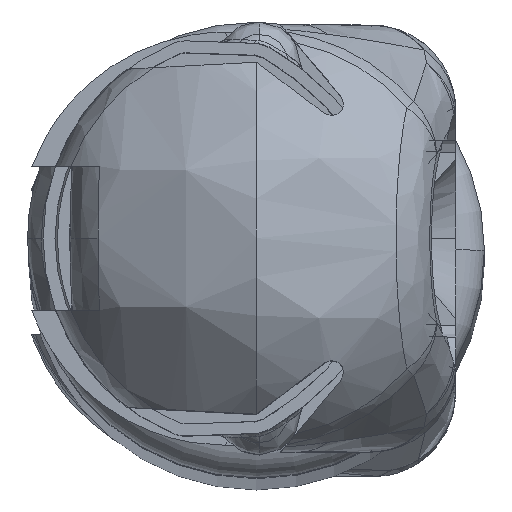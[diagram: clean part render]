
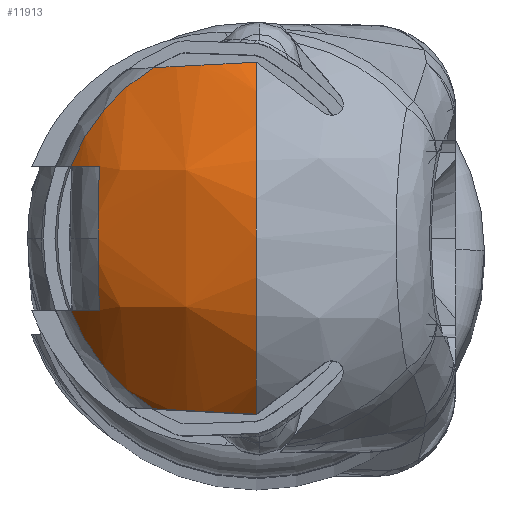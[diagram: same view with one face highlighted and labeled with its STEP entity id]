
A CAD part, top view. The second image highlights one B-rep face of the part: STEP entity #11913.
In plain terms, the highlighted free-form (B-spline) face has degree [3, 3] with [4, 4] control points.
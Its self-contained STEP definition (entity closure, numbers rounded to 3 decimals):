
#355 = CARTESIAN_POINT ( 'NONE',  ( -0.895, 0., 5.753 ) ) ;
#356 = DIRECTION ( 'NONE',  ( -0.105, 0., -0.995 ) ) ;
#357 = DIRECTION ( 'NONE',  ( -0.995, 0., 0.105 ) ) ;
#752 = CARTESIAN_POINT ( 'NONE',  ( -1.5, 0., 0. ) ) ;
#753 = DIRECTION ( 'NONE',  ( 0., 0., -1. ) ) ;
#754 = DIRECTION ( 'NONE',  ( 0., -1., 0. ) ) ;
#2656 = CARTESIAN_POINT ( 'NONE',  ( -7.204, 7.402, 4.197 ) ) ;
#2657 = CARTESIAN_POINT ( 'NONE',  ( -8.224, 7.402, 2.222 ) ) ;
#2658 = CARTESIAN_POINT ( 'NONE',  ( -8.224, 7.402, 0. ) ) ;
#2686 = CARTESIAN_POINT ( 'NONE',  ( -12.897, 3.157, 3.767 ) ) ;
#2687 = CARTESIAN_POINT ( 'NONE',  ( -12.897, 3.157, 0. ) ) ;
#2688 = CARTESIAN_POINT ( 'NONE',  ( -5.392, 7.402, 5.483 ) ) ;
#2765 = CARTESIAN_POINT ( 'NONE',  ( -5.392, -7.402, 5.483 ) ) ;
#2766 = CARTESIAN_POINT ( 'NONE',  ( -7.204, -7.402, 4.197 ) ) ;
#2767 = CARTESIAN_POINT ( 'NONE',  ( -8.224, -7.402, 2.222 ) ) ;
#2768 = CARTESIAN_POINT ( 'NONE',  ( -8.224, -7.402, 0. ) ) ;
#2771 = CARTESIAN_POINT ( 'NONE',  ( -8.097, -3.157, 9.293 ) ) ;
#2772 = CARTESIAN_POINT ( 'NONE',  ( -11.169, -3.157, 7.113 ) ) ;
#2773 = CARTESIAN_POINT ( 'NONE',  ( -12.897, -3.157, 3.767 ) ) ;
#2774 = CARTESIAN_POINT ( 'NONE',  ( -12.897, -3.157, 0. ) ) ;
#2775 = CARTESIAN_POINT ( 'NONE',  ( -8.097, 3.157, 9.293 ) ) ;
#2776 = CARTESIAN_POINT ( 'NONE',  ( -11.169, 3.157, 7.113 ) ) ;
#3306 = DIRECTION ( 'NONE',  ( 0., 0., -1. ) ) ;
#3307 = DIRECTION ( 'NONE',  ( 1., 0., 0. ) ) ;
#3308 = CARTESIAN_POINT ( 'NONE',  ( -7.066, 0., 0. ) ) ;
#5393 = CARTESIAN_POINT ( 'NONE',  ( -8.297, 7.335, 0. ) ) ;
#5405 = CARTESIAN_POINT ( 'NONE',  ( -9.008, 0., 6.606 ) ) ;
#5436 = CARTESIAN_POINT ( 'NONE',  ( -8.297, -7.335, 0. ) ) ;
#5476 = CARTESIAN_POINT ( 'NONE',  ( -8.439, 3., 6.546 ) ) ;
#5646 = CARTESIAN_POINT ( 'NONE',  ( -8.297, -7.335, 0. ) ) ;
#5647 = CARTESIAN_POINT ( 'NONE',  ( -8.34, -7.295, 0.765 ) ) ;
#5648 = CARTESIAN_POINT ( 'NONE',  ( -8.256, -7.256, 1.517 ) ) ;
#5649 = CARTESIAN_POINT ( 'NONE',  ( -7.834, -7.178, 2.99 ) ) ;
#5650 = CARTESIAN_POINT ( 'NONE',  ( -7.508, -7.143, 3.671 ) ) ;
#5651 = CARTESIAN_POINT ( 'NONE',  ( -7.066, -7.11, 4.298 ) ) ;
#5652 = DIRECTION ( 'NONE',  ( 1., 0., 0. ) ) ;
#5653 = DIRECTION ( 'NONE',  ( 0., -1., 0. ) ) ;
#5654 = CARTESIAN_POINT ( 'NONE',  ( -1.5, 3., 0. ) ) ;
#5655 = CARTESIAN_POINT ( 'NONE',  ( -7.066, 7.11, 4.298 ) ) ;
#5656 = CARTESIAN_POINT ( 'NONE',  ( -7.508, 7.143, 3.671 ) ) ;
#5657 = CARTESIAN_POINT ( 'NONE',  ( -7.835, 7.178, 2.989 ) ) ;
#5658 = CARTESIAN_POINT ( 'NONE',  ( -8.256, 7.256, 1.516 ) ) ;
#5659 = CARTESIAN_POINT ( 'NONE',  ( -8.34, 7.295, 0.765 ) ) ;
#5660 = CARTESIAN_POINT ( 'NONE',  ( -8.297, 7.335, 0. ) ) ;
#6354 = CIRCLE ( 'NONE', #6369, 9.539 ) ;
#6369 = AXIS2_PLACEMENT_3D ( 'NONE', #5654, #5653, #5652 ) ;
#6372 = CIRCLE ( 'NONE', #6379, 8.308 ) ;
#6379 = AXIS2_PLACEMENT_3D ( 'NONE', #3308, #3307, #3306 ) ;
#7436 = B_SPLINE_CURVE_WITH_KNOTS ( 'NONE', 3,
 ( #5660, #5659, #5658, #5657, #5656, #5655 ),
 .UNSPECIFIED., .F., .F.,
 ( 4, 2, 4 ),
 ( 0., 0.002, 0.005 ),
 .UNSPECIFIED. ) ;
#7437 = B_SPLINE_CURVE_WITH_KNOTS ( 'NONE', 3,
 ( #5651, #5650, #5649, #5648, #5647, #5646 ),
 .UNSPECIFIED., .F., .F.,
 ( 4, 2, 4 ),
 ( 0., 0.002, 0.005 ),
 .UNSPECIFIED. ) ;
#7754 = VERTEX_POINT ( 'NONE', #5476 ) ;
#7790 = VERTEX_POINT ( 'NONE', #5436 ) ;
#7818 = VERTEX_POINT ( 'NONE', #5405 ) ;
#7830 = VERTEX_POINT ( 'NONE', #5393 ) ;
#8053 = ORIENTED_EDGE ( 'NONE', *, *, #18886, .F. ) ;
#8054 = ORIENTED_EDGE ( 'NONE', *, *, #14872, .T. ) ;
#8055 = ORIENTED_EDGE ( 'NONE', *, *, #11181, .F. ) ;
#8056 = ORIENTED_EDGE ( 'NONE', *, *, #14783, .T. ) ;
#8057 = ORIENTED_EDGE ( 'NONE', *, *, #14704, .T. ) ;
#8058 = ORIENTED_EDGE ( 'NONE', *, *, #18817, .T. ) ;
#8059 = ORIENTED_EDGE ( 'NONE', *, *, #11180, .F. ) ;
#8060 = ORIENTED_EDGE ( 'NONE', *, *, #11187, .F. ) ;
#8061 = ORIENTED_EDGE ( 'NONE', *, *, #11179, .F. ) ;
#10598 = AXIS2_PLACEMENT_3D ( 'NONE', #15361, #15362, #15363 ) ;
#10621 = AXIS2_PLACEMENT_3D ( 'NONE', #15837, #15838, #15839 ) ;
#10710 =( BOUNDED_SURFACE ( )  B_SPLINE_SURFACE ( 3, 3, ( 
 ( #2765, #2766, #2767, #2768 ),
 ( #2771, #2772, #2773, #2774 ),
 ( #2775, #2776, #2686, #2687 ),
 ( #2688, #2656, #2657, #2658 ) ),
 .UNSPECIFIED., .F., .F., .F. ) 
 B_SPLINE_SURFACE_WITH_KNOTS ( ( 4, 4 ),
 ( 4, 4 ),
 ( 0., 1. ),
 ( 0., 1. ),
 .UNSPECIFIED. ) 
 GEOMETRIC_REPRESENTATION_ITEM ( )  RATIONAL_B_SPLINE_SURFACE ( (
 ( 1., 0.926, 0.926, 1.),
 ( 0.782, 0.724, 0.724, 0.782),
 ( 0.782, 0.724, 0.724, 0.782),
 ( 1., 0.926, 0.926, 1.) ) ) 
 REPRESENTATION_ITEM ( '' )  SURFACE ( )  );
#10788 = CIRCLE ( 'NONE', #10621, 8.308 ) ;
#10801 = CIRCLE ( 'NONE', #10598, 8.157 ) ;
#11051 = FACE_OUTER_BOUND ( 'NONE', #13413, .T. ) ;
#11179 = EDGE_CURVE ( 'NONE', #7830, #17594, #7436, .T. ) ;
#11180 = EDGE_CURVE ( 'NONE', #17637, #7754, #6354, .T. ) ;
#11181 = EDGE_CURVE ( 'NONE', #17631, #7790, #7437, .T. ) ;
#11187 = EDGE_CURVE ( 'NONE', #17594, #17637, #6372, .T. ) ;
#11913 = ADVANCED_FACE ( 'NONE', ( #11051 ), #10710, .T. ) ;
#12914 = CIRCLE ( 'NONE', #13050, 9.539 ) ;
#13050 = AXIS2_PLACEMENT_3D ( 'NONE', #14342, #14343, #14344 ) ;
#13413 = EDGE_LOOP ( 'NONE', ( #8053, #8055, #8054, #8057, #8056, #8058, #8059, #8060, #8061 ) ) ;
#14342 = CARTESIAN_POINT ( 'NONE',  ( -1.5, -3., 0. ) ) ;
#14343 = DIRECTION ( 'NONE',  ( 0., -1., 0. ) ) ;
#14344 = DIRECTION ( 'NONE',  ( 1., 0., 0. ) ) ;
#14704 = EDGE_CURVE ( 'NONE', #17641, #17717, #12914, .T. ) ;
#14783 = EDGE_CURVE ( 'NONE', #17717, #7818, #10801, .T. ) ;
#14872 = EDGE_CURVE ( 'NONE', #17631, #17641, #10788, .T. ) ;
#15361 = CARTESIAN_POINT ( 'NONE',  ( -0.895, 0., 5.753 ) ) ;
#15362 = DIRECTION ( 'NONE',  ( -0.105, 0., -0.995 ) ) ;
#15363 = DIRECTION ( 'NONE',  ( -0.995, 0., 0.105 ) ) ;
#15837 = CARTESIAN_POINT ( 'NONE',  ( -7.066, 0., 0. ) ) ;
#15838 = DIRECTION ( 'NONE',  ( -1., 0., 0. ) ) ;
#15839 = DIRECTION ( 'NONE',  ( 0., 0., -1. ) ) ;
#15869 = CIRCLE ( 'NONE', #15973, 10. ) ;
#15953 = AXIS2_PLACEMENT_3D ( 'NONE', #355, #356, #357 ) ;
#15964 = CIRCLE ( 'NONE', #15953, 8.157 ) ;
#15973 = AXIS2_PLACEMENT_3D ( 'NONE', #752, #753, #754 ) ;
#16639 = CARTESIAN_POINT ( 'NONE',  ( -7.066, 7.11, 4.298 ) ) ;
#16652 = CARTESIAN_POINT ( 'NONE',  ( -7.066, -7.11, 4.298 ) ) ;
#16654 = CARTESIAN_POINT ( 'NONE',  ( -7.066, 3., 7.747 ) ) ;
#16655 = CARTESIAN_POINT ( 'NONE',  ( -7.066, -3., 7.747 ) ) ;
#16682 = CARTESIAN_POINT ( 'NONE',  ( -8.439, -3., 6.546 ) ) ;
#17594 = VERTEX_POINT ( 'NONE', #16639 ) ;
#17631 = VERTEX_POINT ( 'NONE', #16652 ) ;
#17637 = VERTEX_POINT ( 'NONE', #16654 ) ;
#17641 = VERTEX_POINT ( 'NONE', #16655 ) ;
#17717 = VERTEX_POINT ( 'NONE', #16682 ) ;
#18817 = EDGE_CURVE ( 'NONE', #7818, #7754, #15964, .T. ) ;
#18886 = EDGE_CURVE ( 'NONE', #7790, #7830, #15869, .T. ) ;
